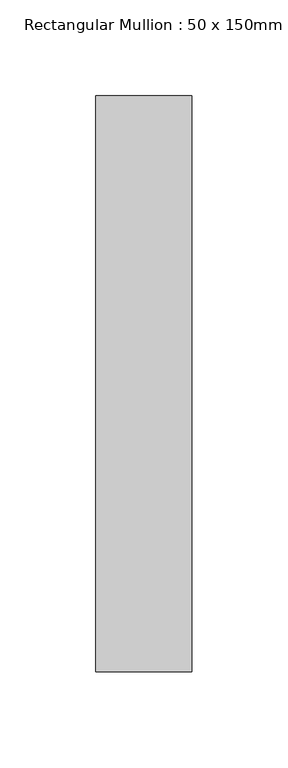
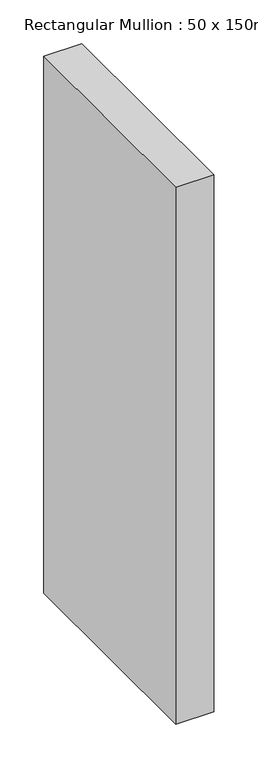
"""IFC4 building model written with IfcOpenShell, lengths in millimetres: member geometry, Rectangular Mullion : 50 x 150mm."""

from ifc_helpers import new_model, si_unit, frame, origin, place, context, project, spatial, polyline, outline, extrude, source, transform, mapped, element, save


def rectangular_mullion_50_x_150mm_57be7c81(model_context):
    return source(origin(), model_context, "Body", "SweptSolid", [
        extrude(outline(polyline([(0.0, 175.0), (0.0, -125.0), (-50.0, -125.0), (-50.0, 175.0), (0.0, 175.0)])), frame((0.0, 0.0, -746.1643399), z_axis=(0.0, 0.0, 1.0), x_axis=(1.0, 0.0, 0.0)), (0.0, 0.0, 1.0), 746.1643399),
    ])


if __name__ == "__main__":
    model = new_model("IFC4")
    model_context = context("Model", 3, world=origin())
    ifc_project = project(units=[si_unit("LENGTHUNIT", "METRE", prefix="MILLI")], contexts=[model_context])
    site = spatial("IfcSite", under=ifc_project)
    building = spatial("IfcBuilding", under=site)
    placement = place(None, origin())
    rectangular_mullion_50_x_150mm_shape = rectangular_mullion_50_x_150mm_57be7c81(model_context)
    element("IfcMember", 1, ObjectType="Rectangular Mullion : 50 x 150mm", at=placement, inside=building, context=model_context, shape_type="MappedRepresentation", body=[
        mapped(rectangular_mullion_50_x_150mm_shape, transform((0.0, 0.0, 0.0), x_axis=(1.0, 0.0, 0.0), y_axis=(0.0, 1.0, 0.0), z_axis=(0.0, 0.0, 1.0))),
    ])
    save(model, "model.ifc")
